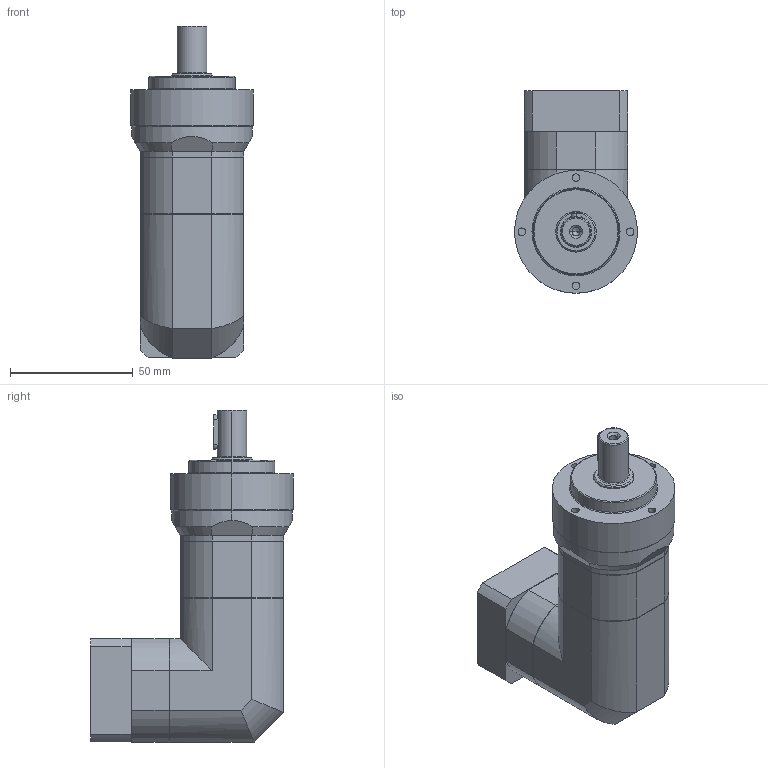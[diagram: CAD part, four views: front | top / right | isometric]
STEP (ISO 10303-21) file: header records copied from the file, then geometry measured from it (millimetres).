
FILE_DESCRIPTION (( 'STEP AP214' ), '1' );
FILE_NAME ('EVL050-L2-S2-P1 8-30-46-M4.STEP', '2023-09-09T01:18:20', ( '微软用户' ), ( '微软中国' ), 'SwSTEP 2.0', 'SolidWorks 2018', '' );
FILE_SCHEMA (( 'AUTOMOTIVE_DESIGN' ));
Length unit declared in the file: millimetre
Products named in the file (1): EVL050-L2-S2-P1 8-30-46-M4
Bounding box: 50 x 82.5 x 135 mm (x, y, z)
Volume: 230524.1 mm3; surface area: 30039.4 mm2
Topology: 1 solids, 1 shells, 171 faces, 386 edges, 235 vertices
Faces by surface type: plane 69, cylinder 66, cone 28, torus 8
Entity records: 4880 total; most frequent: CARTESIAN_POINT 1006, DIRECTION 830, ORIENTED_EDGE 768, EDGE_CURVE 384, AXIS2_PLACEMENT_3D 329, VERTEX_POINT 235, EDGE_LOOP 191, VECTOR 172
